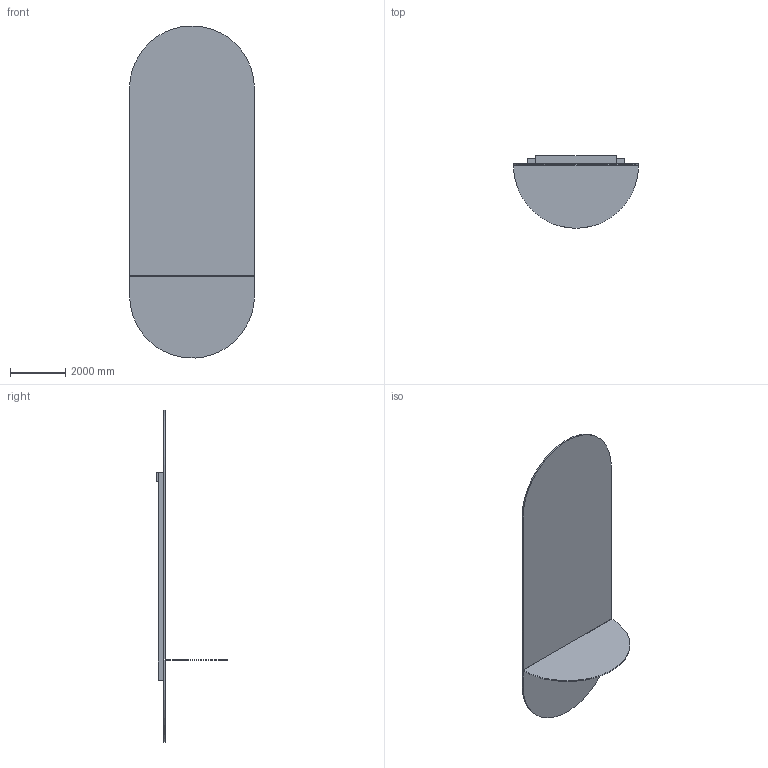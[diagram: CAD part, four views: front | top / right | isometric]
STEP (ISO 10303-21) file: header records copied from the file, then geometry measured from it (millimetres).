
FILE_DESCRIPTION(/* description */ (''),/* implementation_level */ '2;1');
FILE_NAME(/* name */ 'Loop_3D',/* time_stamp */ '2023-01-18T11:30:38+01:00',/* author */ (''),/* organization */ (''),/* preprocessor_version */ 'ST-DEVELOPER v16.5',/* originating_system */ '',/* authorisation */ '');
FILE_SCHEMA (('AUTOMOTIVE_DESIGN'));
Length unit declared in the file: centimetre
Products named in the file (1): Document
Bounding box: 4500 x 2594.66 x 11981.51 mm (x, y, z)
Volume: 4011131545.5 mm3; surface area: 147660995.7 mm2
Topology: 6 solids, 7 shells, 133 faces, 548 edges, 428 vertices
Faces by surface type: plane 121, bspline 12
Entity records: 4806 total; most frequent: CARTESIAN_POINT 1764, ORIENTED_EDGE 724, EDGE_CURVE 548, B_SPLINE_CURVE_WITH_KNOTS 524, VERTEX_POINT 428, EDGE_LOOP 135, ADVANCED_FACE 133, FACE_OUTER_BOUND 133
